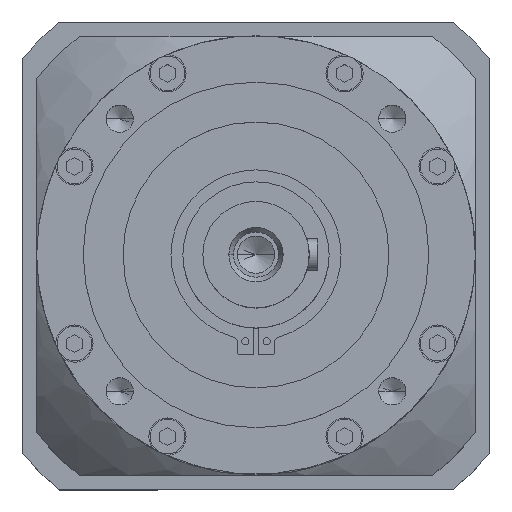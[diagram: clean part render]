
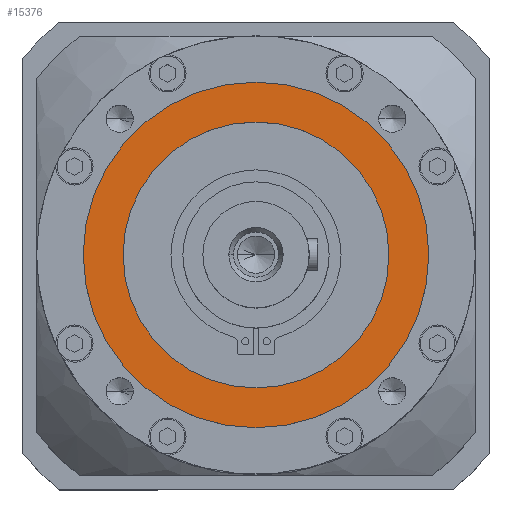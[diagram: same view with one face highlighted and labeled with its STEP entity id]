
A CAD part, top view. The second image highlights one B-rep face of the part: STEP entity #15376.
In plain terms, the highlighted planar face has unit normal (0, 0, 1).
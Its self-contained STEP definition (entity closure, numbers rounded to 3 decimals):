
#4475 = VERTEX_POINT ( 'NONE', #11847 ) ;
#5254 = DIRECTION ( 'NONE',  ( 0., 0., -1. ) ) ;
#6233 = CIRCLE ( 'NONE', #10463, 50. ) ;
#8499 = FACE_BOUND ( 'NONE', #45557, .T. ) ;
#9168 = FACE_OUTER_BOUND ( 'NONE', #16569, .T. ) ;
#9221 = AXIS2_PLACEMENT_3D ( 'NONE', #28705, #28654, #28541 ) ;
#10436 = EDGE_CURVE ( 'NONE', #38609, #43067, #18054, .T. ) ;
#10463 = AXIS2_PLACEMENT_3D ( 'NONE', #18153, #44390, #21981 ) ;
#11847 = CARTESIAN_POINT ( 'NONE',  ( 65., 0., 0. ) ) ;
#12725 = DIRECTION ( 'NONE',  ( 0., 0., -1. ) ) ;
#14464 = CARTESIAN_POINT ( 'NONE',  ( -50., 0., 0. ) ) ;
#15376 = ADVANCED_FACE ( 'NONE', ( #8499, #9168 ), #45141, .F. ) ;
#16569 = EDGE_LOOP ( 'NONE', ( #33317, #18204 ) ) ;
#18054 = CIRCLE ( 'NONE', #9221, 50. ) ;
#18153 = CARTESIAN_POINT ( 'NONE',  ( 0., 0., 0. ) ) ;
#18204 = ORIENTED_EDGE ( 'NONE', *, *, #46295, .F. ) ;
#18772 = AXIS2_PLACEMENT_3D ( 'NONE', #45485, #44531, #44320 ) ;
#19256 = CIRCLE ( 'NONE', #36059, 65. ) ;
#20345 = CIRCLE ( 'NONE', #33223, 65. ) ;
#21981 = DIRECTION ( 'NONE',  ( 1., 0., 0. ) ) ;
#23068 = CARTESIAN_POINT ( 'NONE',  ( -65., 0., 0. ) ) ;
#27730 = VERTEX_POINT ( 'NONE', #23068 ) ;
#27790 = EDGE_CURVE ( 'NONE', #4475, #27730, #19256, .T. ) ;
#27848 = CARTESIAN_POINT ( 'NONE',  ( 0., 0., 0. ) ) ;
#27927 = ORIENTED_EDGE ( 'NONE', *, *, #10436, .F. ) ;
#28541 = DIRECTION ( 'NONE',  ( 1., 0., 0. ) ) ;
#28654 = DIRECTION ( 'NONE',  ( 0., 0., 1. ) ) ;
#28705 = CARTESIAN_POINT ( 'NONE',  ( 0., 0., 0. ) ) ;
#28988 = ORIENTED_EDGE ( 'NONE', *, *, #46022, .F. ) ;
#31659 = DIRECTION ( 'NONE',  ( 1., 0., 0. ) ) ;
#33223 = AXIS2_PLACEMENT_3D ( 'NONE', #35296, #12725, #39097 ) ;
#33317 = ORIENTED_EDGE ( 'NONE', *, *, #27790, .F. ) ;
#35296 = CARTESIAN_POINT ( 'NONE',  ( 0., 0., 0. ) ) ;
#36059 = AXIS2_PLACEMENT_3D ( 'NONE', #27848, #5254, #31659 ) ;
#38609 = VERTEX_POINT ( 'NONE', #47798 ) ;
#39097 = DIRECTION ( 'NONE',  ( 1., 0., 0. ) ) ;
#43067 = VERTEX_POINT ( 'NONE', #14464 ) ;
#44320 = DIRECTION ( 'NONE',  ( -1., 0., 0. ) ) ;
#44390 = DIRECTION ( 'NONE',  ( 0., 0., 1. ) ) ;
#44531 = DIRECTION ( 'NONE',  ( 0., 0., -1. ) ) ;
#45141 = PLANE ( 'NONE',  #18772 ) ;
#45485 = CARTESIAN_POINT ( 'NONE',  ( 0., 50., 0. ) ) ;
#45557 = EDGE_LOOP ( 'NONE', ( #27927, #28988 ) ) ;
#46022 = EDGE_CURVE ( 'NONE', #43067, #38609, #6233, .T. ) ;
#46295 = EDGE_CURVE ( 'NONE', #27730, #4475, #20345, .T. ) ;
#47798 = CARTESIAN_POINT ( 'NONE',  ( 50., 0., 0. ) ) ;
